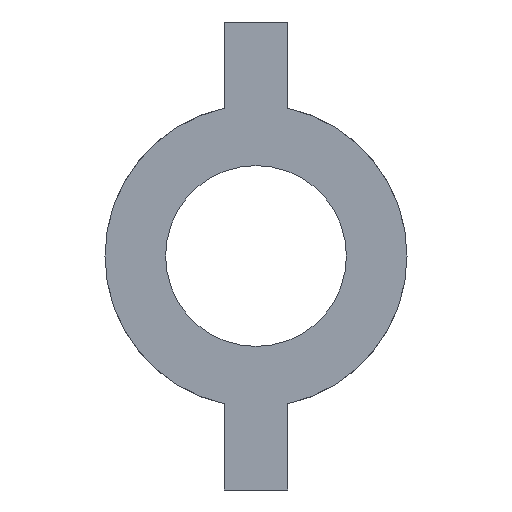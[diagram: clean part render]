
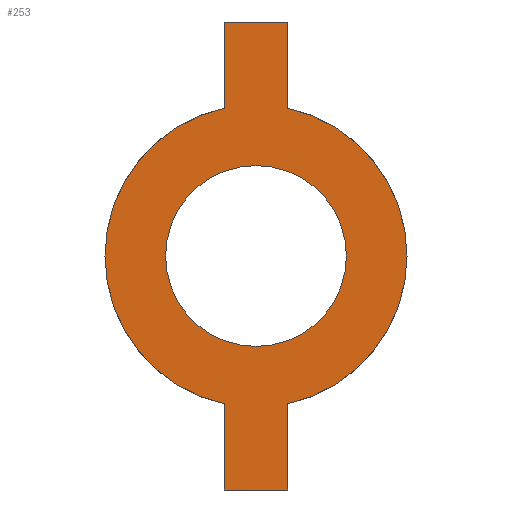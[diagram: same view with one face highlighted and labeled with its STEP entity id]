
A CAD part, front view. The second image highlights one B-rep face of the part: STEP entity #253.
In plain terms, the highlighted planar face has unit normal (0, -1, 0).
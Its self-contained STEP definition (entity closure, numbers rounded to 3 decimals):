
#1 = CIRCLE ( 'NONE', #2, 42.5 ) ;
#2 = AXIS2_PLACEMENT_3D ( 'NONE', #136, #134, #133 ) ;
#6 = CIRCLE ( 'NONE', #9, 71. ) ;
#9 = AXIS2_PLACEMENT_3D ( 'NONE', #120, #118, #116 ) ;
#39 = VECTOR ( 'NONE', #141, 1000. ) ;
#41 = VECTOR ( 'NONE', #126, 1000. ) ;
#42 = VECTOR ( 'NONE', #157, 1000. ) ;
#43 = VECTOR ( 'NONE', #119, 1000. ) ;
#76 = VECTOR ( 'NONE', #135, 1000. ) ;
#85 = CARTESIAN_POINT ( 'NONE',  ( 15., 0., -69.397 ) ) ;
#87 = CARTESIAN_POINT ( 'NONE',  ( 15., 0., -110. ) ) ;
#88 = CARTESIAN_POINT ( 'NONE',  ( -15., 0., -69.397 ) ) ;
#90 = CARTESIAN_POINT ( 'NONE',  ( 0., 0., -42.5 ) ) ;
#91 = CARTESIAN_POINT ( 'NONE',  ( -15., 0., -110. ) ) ;
#92 = CARTESIAN_POINT ( 'NONE',  ( -15., 0., 69.397 ) ) ;
#93 = CARTESIAN_POINT ( 'NONE',  ( 15., 0., 110. ) ) ;
#95 = CARTESIAN_POINT ( 'NONE',  ( -15., 0., 110. ) ) ;
#103 = CARTESIAN_POINT ( 'NONE',  ( 0., 0., 42.5 ) ) ;
#108 = CARTESIAN_POINT ( 'NONE',  ( 15., 0., 69.397 ) ) ;
#112 = CARTESIAN_POINT ( 'NONE',  ( 15., 0., 52.297 ) ) ;
#116 = DIRECTION ( 'NONE',  ( 0., 0., 1. ) ) ;
#117 = LINE ( 'NONE', #112, #42 ) ;
#118 = DIRECTION ( 'NONE',  ( 0., 1., 0. ) ) ;
#119 = DIRECTION ( 'NONE',  ( 1., 0., 0. ) ) ;
#120 = CARTESIAN_POINT ( 'NONE',  ( 0., 0., 0. ) ) ;
#123 = CARTESIAN_POINT ( 'NONE',  ( -15., 0., 110. ) ) ;
#126 = DIRECTION ( 'NONE',  ( 0., 0., 1. ) ) ;
#127 = CARTESIAN_POINT ( 'NONE',  ( -15., 0., 52.297 ) ) ;
#133 = DIRECTION ( 'NONE',  ( 0., 0., 1. ) ) ;
#134 = DIRECTION ( 'NONE',  ( 0., 1., 0. ) ) ;
#135 = DIRECTION ( 'NONE',  ( -1., 0., 0. ) ) ;
#136 = CARTESIAN_POINT ( 'NONE',  ( 0., 0., 0. ) ) ;
#137 = LINE ( 'NONE', #127, #41 ) ;
#141 = DIRECTION ( 'NONE',  ( 0., 0., 1. ) ) ;
#143 = CARTESIAN_POINT ( 'NONE',  ( -15., 0., -110. ) ) ;
#148 = LINE ( 'NONE', #143, #39 ) ;
#153 = CARTESIAN_POINT ( 'NONE',  ( -15., 0., -110. ) ) ;
#157 = DIRECTION ( 'NONE',  ( 0., 0., -1. ) ) ;
#158 = DIRECTION ( 'NONE',  ( 0., 0., -1. ) ) ;
#161 = CARTESIAN_POINT ( 'NONE',  ( 15., 0., -110. ) ) ;
#162 = DIRECTION ( 'NONE',  ( 0., 0., 1. ) ) ;
#165 = DIRECTION ( 'NONE',  ( 0., 1., 0. ) ) ;
#167 = CARTESIAN_POINT ( 'NONE',  ( 0., 0., 0. ) ) ;
#171 = LINE ( 'NONE', #153, #76 ) ;
#173 = LINE ( 'NONE', #161, #199 ) ;
#183 = LINE ( 'NONE', #123, #43 ) ;
#184 = AXIS2_PLACEMENT_3D ( 'NONE', #372, #364, #363 ) ;
#191 = CIRCLE ( 'NONE', #198, 71. ) ;
#198 = AXIS2_PLACEMENT_3D ( 'NONE', #301, #300, #299 ) ;
#199 = VECTOR ( 'NONE', #158, 1000. ) ;
#200 = CIRCLE ( 'NONE', #293, 42.5 ) ;
#231 = EDGE_LOOP ( 'NONE', ( #303, #306, #317, #307, #313, #305, #319, #334 ) ) ;
#236 = EDGE_LOOP ( 'NONE', ( #320, #321 ) ) ;
#253 = ADVANCED_FACE ( 'NONE', ( #368, #377 ), #366, .F. ) ;
#263 = EDGE_CURVE ( 'NONE', #422, #441, #191, .T. ) ;
#266 = EDGE_CURVE ( 'NONE', #423, #436, #200, .T. ) ;
#267 = EDGE_CURVE ( 'NONE', #441, #439, #173, .T. ) ;
#268 = EDGE_CURVE ( 'NONE', #439, #435, #171, .T. ) ;
#269 = EDGE_CURVE ( 'NONE', #435, #438, #148, .T. ) ;
#270 = EDGE_CURVE ( 'NONE', #434, #431, #137, .T. ) ;
#271 = EDGE_CURVE ( 'NONE', #431, #433, #183, .T. ) ;
#272 = EDGE_CURVE ( 'NONE', #433, #422, #117, .T. ) ;
#284 = EDGE_CURVE ( 'NONE', #436, #423, #1, .T. ) ;
#288 = EDGE_CURVE ( 'NONE', #438, #434, #6, .T. ) ;
#293 = AXIS2_PLACEMENT_3D ( 'NONE', #167, #165, #162 ) ;
#299 = DIRECTION ( 'NONE',  ( 0., 0., 1. ) ) ;
#300 = DIRECTION ( 'NONE',  ( 0., 1., 0. ) ) ;
#301 = CARTESIAN_POINT ( 'NONE',  ( 0., 0., 0. ) ) ;
#303 = ORIENTED_EDGE ( 'NONE', *, *, #263, .F. ) ;
#305 = ORIENTED_EDGE ( 'NONE', *, *, #269, .F. ) ;
#306 = ORIENTED_EDGE ( 'NONE', *, *, #272, .F. ) ;
#307 = ORIENTED_EDGE ( 'NONE', *, *, #270, .F. ) ;
#313 = ORIENTED_EDGE ( 'NONE', *, *, #288, .F. ) ;
#317 = ORIENTED_EDGE ( 'NONE', *, *, #271, .F. ) ;
#319 = ORIENTED_EDGE ( 'NONE', *, *, #268, .F. ) ;
#320 = ORIENTED_EDGE ( 'NONE', *, *, #284, .T. ) ;
#321 = ORIENTED_EDGE ( 'NONE', *, *, #266, .T. ) ;
#334 = ORIENTED_EDGE ( 'NONE', *, *, #267, .F. ) ;
#363 = DIRECTION ( 'NONE',  ( 0., 0., 1. ) ) ;
#364 = DIRECTION ( 'NONE',  ( 0., 1., 0. ) ) ;
#366 = PLANE ( 'NONE',  #184 ) ;
#368 = FACE_OUTER_BOUND ( 'NONE', #231, .T. ) ;
#372 = CARTESIAN_POINT ( 'NONE',  ( 0., 0., 0. ) ) ;
#377 = FACE_BOUND ( 'NONE', #236, .T. ) ;
#422 = VERTEX_POINT ( 'NONE', #108 ) ;
#423 = VERTEX_POINT ( 'NONE', #103 ) ;
#431 = VERTEX_POINT ( 'NONE', #95 ) ;
#433 = VERTEX_POINT ( 'NONE', #93 ) ;
#434 = VERTEX_POINT ( 'NONE', #92 ) ;
#435 = VERTEX_POINT ( 'NONE', #91 ) ;
#436 = VERTEX_POINT ( 'NONE', #90 ) ;
#438 = VERTEX_POINT ( 'NONE', #88 ) ;
#439 = VERTEX_POINT ( 'NONE', #87 ) ;
#441 = VERTEX_POINT ( 'NONE', #85 ) ;
